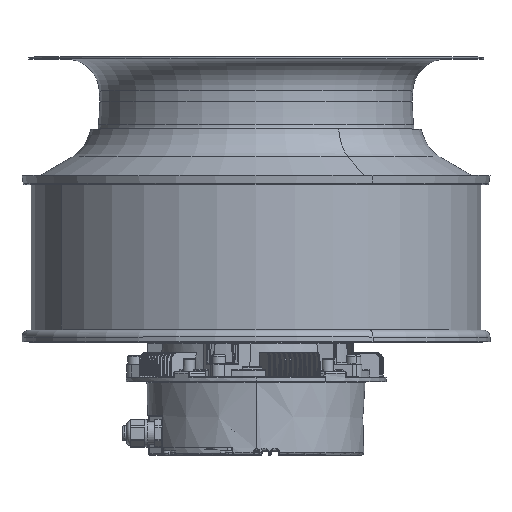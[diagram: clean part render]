
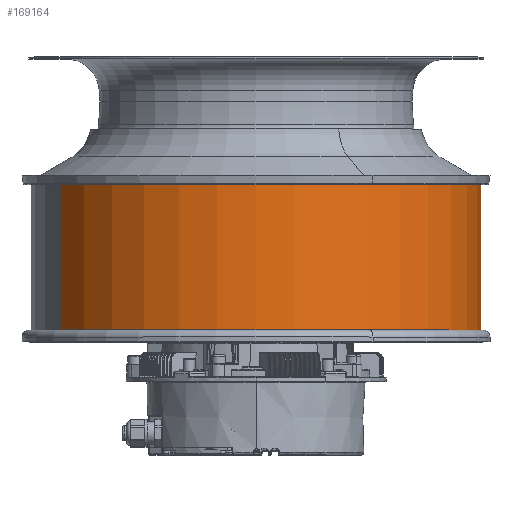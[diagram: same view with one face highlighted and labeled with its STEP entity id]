
A CAD part, top view. The second image highlights one B-rep face of the part: STEP entity #169164.
In plain terms, the highlighted cylindrical face has radius 172.827 mm (diameter 345.654 mm), a partial arc.
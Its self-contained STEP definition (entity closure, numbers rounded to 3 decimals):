
#582 = VERTEX_POINT ( 'NONE', #78285 ) ;
#5651 = AXIS2_PLACEMENT_3D ( 'NONE', #146559, #147531, #120234 ) ;
#9366 = CYLINDRICAL_SURFACE ( 'NONE', #5651, 172.827 ) ;
#11362 = CIRCLE ( 'NONE', #124058, 172.827 ) ;
#24523 = FACE_OUTER_BOUND ( 'NONE', #84297, .T. ) ;
#30884 = CARTESIAN_POINT ( 'NONE',  ( -172.827, 0., 154.701 ) ) ;
#43464 = DIRECTION ( 'NONE',  ( -1., 0., 0. ) ) ;
#43613 = ORIENTED_EDGE ( 'NONE', *, *, #157028, .F. ) ;
#51865 = ORIENTED_EDGE ( 'NONE', *, *, #155794, .T. ) ;
#52924 = DIRECTION ( 'NONE',  ( 1., 0., 0. ) ) ;
#57144 = EDGE_CURVE ( 'NONE', #145609, #582, #11362, .T. ) ;
#75661 = CARTESIAN_POINT ( 'NONE',  ( 0., 0., 112.586 ) ) ;
#78285 = CARTESIAN_POINT ( 'NONE',  ( 172.827, 0., 0. ) ) ;
#84297 = EDGE_LOOP ( 'NONE', ( #43613, #171053, #51865, #134569 ) ) ;
#87230 = CARTESIAN_POINT ( 'NONE',  ( 172.827, 0., 154.701 ) ) ;
#88790 = DIRECTION ( 'NONE',  ( 0., 0., -1. ) ) ;
#100810 = CARTESIAN_POINT ( 'NONE',  ( -172.827, 0., 112.586 ) ) ;
#104367 = DIRECTION ( 'NONE',  ( 0., 0., -1. ) ) ;
#104727 = VERTEX_POINT ( 'NONE', #100810 ) ;
#117487 = LINE ( 'NONE', #87230, #147277 ) ;
#120234 = DIRECTION ( 'NONE',  ( -1., 0., 0. ) ) ;
#122045 = CIRCLE ( 'NONE', #138191, 172.827 ) ;
#124058 = AXIS2_PLACEMENT_3D ( 'NONE', #128507, #129500, #52924 ) ;
#127831 = VECTOR ( 'NONE', #199232, 1000. ) ;
#128507 = CARTESIAN_POINT ( 'NONE',  ( 0., 0., 0. ) ) ;
#129500 = DIRECTION ( 'NONE',  ( 0., 0., 1. ) ) ;
#130172 = EDGE_CURVE ( 'NONE', #175048, #104727, #122045, .T. ) ;
#134569 = ORIENTED_EDGE ( 'NONE', *, *, #57144, .T. ) ;
#135715 = CARTESIAN_POINT ( 'NONE',  ( 172.827, 0., 112.586 ) ) ;
#138191 = AXIS2_PLACEMENT_3D ( 'NONE', #75661, #88790, #43464 ) ;
#145609 = VERTEX_POINT ( 'NONE', #176841 ) ;
#146559 = CARTESIAN_POINT ( 'NONE',  ( 0., 0., 154.701 ) ) ;
#147277 = VECTOR ( 'NONE', #104367, 1000. ) ;
#147531 = DIRECTION ( 'NONE',  ( 0., 0., -1. ) ) ;
#150882 = LINE ( 'NONE', #30884, #127831 ) ;
#155794 = EDGE_CURVE ( 'NONE', #104727, #145609, #150882, .T. ) ;
#157028 = EDGE_CURVE ( 'NONE', #175048, #582, #117487, .T. ) ;
#169164 = ADVANCED_FACE ( 'NONE', ( #24523 ), #9366, .T. ) ;
#171053 = ORIENTED_EDGE ( 'NONE', *, *, #130172, .T. ) ;
#175048 = VERTEX_POINT ( 'NONE', #135715 ) ;
#176841 = CARTESIAN_POINT ( 'NONE',  ( -172.827, 0., 0. ) ) ;
#199232 = DIRECTION ( 'NONE',  ( 0., 0., -1. ) ) ;
